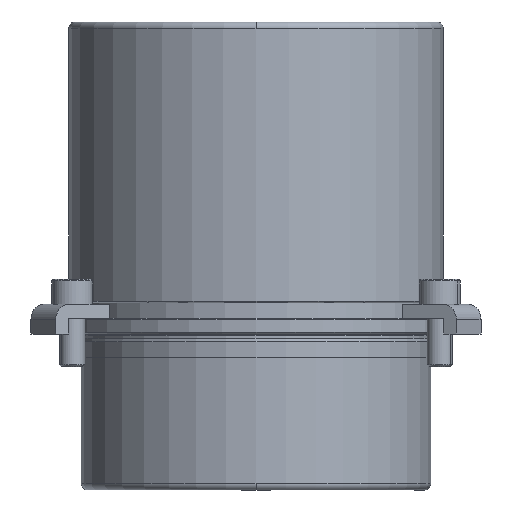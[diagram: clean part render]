
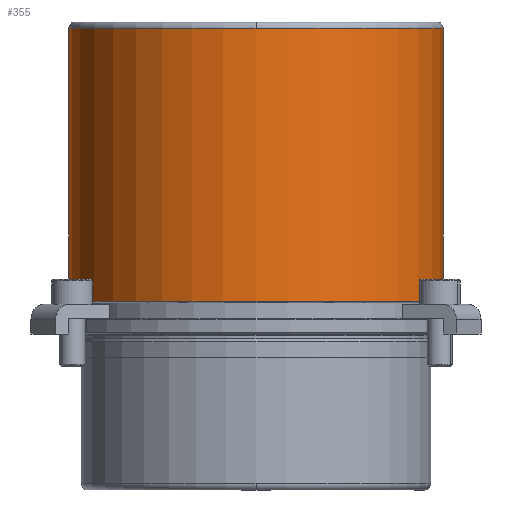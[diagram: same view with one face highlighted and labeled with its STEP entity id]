
A CAD part, front view. The second image highlights one B-rep face of the part: STEP entity #355.
In plain terms, the highlighted cylindrical face has radius 60 mm (diameter 120 mm), a partial arc.
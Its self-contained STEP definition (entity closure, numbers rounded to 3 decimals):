
#269=CARTESIAN_POINT('',(0.0,-60.,98.));
#270=VERTEX_POINT('',#269);
#296=CARTESIAN_POINT('',(-60.0,0.,98.));
#297=VERTEX_POINT('',#296);
#305=CARTESIAN_POINT('',(0.0,0.,98.));
#306=DIRECTION('',(0.0,0.0,1.0));
#307=DIRECTION('',(1.0,0.0,0.0));
#308=AXIS2_PLACEMENT_3D('',#305,#306,#307);
#309=CIRCLE('',#308,60.);
#310=EDGE_CURVE('',#297,#270,#309,.T.);
#315=CARTESIAN_POINT('',(0.0,0.,54.25));
#316=DIRECTION('',(0.0,0.,1.0));
#317=DIRECTION('',(1.0,0.0,0.0));
#318=AXIS2_PLACEMENT_3D('',#315,#316,#317);
#319=CYLINDRICAL_SURFACE('',#318,60.0);
#320=CARTESIAN_POINT('',(60.,0.,98.));
#321=VERTEX_POINT('',#320);
#322=CARTESIAN_POINT('',(60.0,0.,10.5));
#323=VERTEX_POINT('',#322);
#324=CARTESIAN_POINT('',(60.,0.,98.));
#325=DIRECTION('',(0.0,0.0,-1.0));
#326=VECTOR('',#325,87.5);
#327=LINE('',#324,#326);
#328=EDGE_CURVE('',#321,#323,#327,.T.);
#329=ORIENTED_EDGE('',*,*,#328,.F.);
#330=CARTESIAN_POINT('',(0.0,0.,98.));
#331=DIRECTION('',(0.0,0.0,1.0));
#332=DIRECTION('',(1.0,0.0,0.0));
#333=AXIS2_PLACEMENT_3D('',#330,#331,#332);
#334=CIRCLE('',#333,60.);
#335=EDGE_CURVE('',#270,#321,#334,.T.);
#336=ORIENTED_EDGE('',*,*,#335,.F.);
#337=ORIENTED_EDGE('',*,*,#310,.F.);
#338=CARTESIAN_POINT('',(-60.0,0.,10.5));
#339=VERTEX_POINT('',#338);
#340=CARTESIAN_POINT('',(-60.0,0.,98.));
#341=DIRECTION('',(0.0,0.0,-1.0));
#342=VECTOR('',#341,87.5);
#343=LINE('',#340,#342);
#344=EDGE_CURVE('',#297,#339,#343,.T.);
#345=ORIENTED_EDGE('',*,*,#344,.T.);
#346=CARTESIAN_POINT('',(0.0,0.,10.5));
#347=DIRECTION('',(0.0,0.0,1.0));
#348=DIRECTION('',(1.0,0.0,0.0));
#349=AXIS2_PLACEMENT_3D('',#346,#347,#348);
#350=CIRCLE('',#349,60.0);
#351=EDGE_CURVE('',#339,#323,#350,.T.);
#352=ORIENTED_EDGE('',*,*,#351,.T.);
#353=EDGE_LOOP('',(#329,#336,#337,#345,#352));
#354=FACE_OUTER_BOUND('',#353,.T.);
#355=ADVANCED_FACE('',(#354),#319,.T.);
